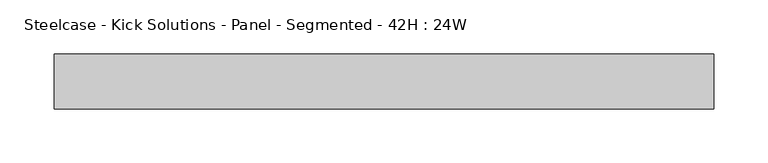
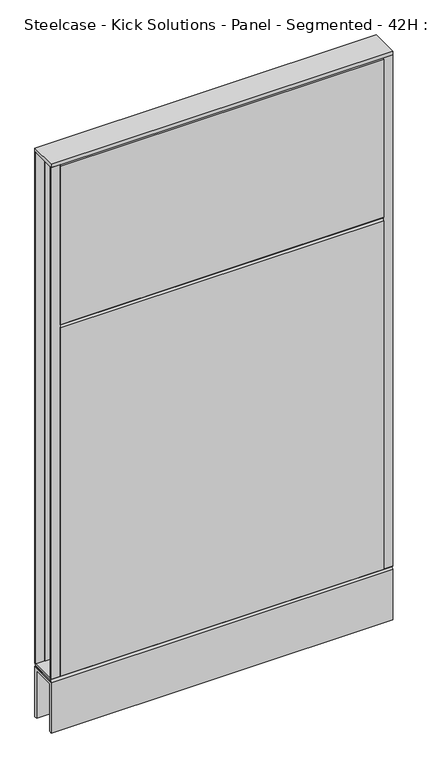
"""IFC4 building model written with IfcOpenShell, lengths in millimetres: furniture geometry, Steelcase - Kick Solutions - Panel - Segmented - 42H : 24W."""

import ifcopenshell
import ifcopenshell.guid

model = None  # the IFC model being written
_history = None  # IfcOwnerHistory: only IFC2X3 demands one
_inside = {}  # id of a spatial element -> (the spatial element, [elements in it])
_under = {}  # id of a project, library or spatial element -> (it, [spatial elements below it])
_declared = {}  # id of a project -> (the project, [libraries it declares])
_typed = {}  # id of a type object -> (the type object, [elements of that type])
_made_of = {}  # id of a material, layer set ... -> (it, [elements and type objects made of it])


def new_model(schema):
    """Start an empty IFC model of exactly this schema.

    Asked for "IFC4X3", IfcOpenShell would pick the latest addendum, in which some entities
    have other attributes; the version numbers below select the first issue.
    IFC2X3 requires an IfcOwnerHistory on every rooted entity: one is made here for all.
    """
    global model, _history
    if schema == "IFC4X3":
        model = ifcopenshell.file(schema_version=(4, 3, 0, 0))
    else:
        model = ifcopenshell.file(schema=schema)
    _inside.clear()
    _under.clear()
    _declared.clear()
    _typed.clear()
    _made_of.clear()
    _history = None
    if model.schema == "IFC2X3":
        org = make("IfcOrganization", Name="unknown")
        user = make(
            "IfcPersonAndOrganization",
            ThePerson=make("IfcPerson", FamilyName="unknown"),
            TheOrganization=org,
        )
        app = make(
            "IfcApplication",
            ApplicationDeveloper=org,
            Version="unknown",
            ApplicationFullName="unknown",
            ApplicationIdentifier="unknown",
        )
        _history = make(
            "IfcOwnerHistory",
            OwningUser=user,
            OwningApplication=app,
            ChangeAction="ADDED",
            CreationDate=0,
        )
    return model


def make(cls, **values):
    """One entity of the class cls with the attributes given. An attribute that is None is left unset."""
    return model.create_entity(
        cls, **{name: value for name, value in values.items() if value is not None}
    )


def rooted(cls, **values):
    """An entity with a GlobalId (a new one), such as an element, a storey or a relation."""
    return make(cls, GlobalId=ifcopenshell.guid.new(), OwnerHistory=_history, **values)


def si_unit(unit_type, name, prefix=None):
    """IfcSIUnit, for example si_unit("LENGTHUNIT", "METRE", prefix="MILLI")."""
    return make("IfcSIUnit", UnitType=unit_type, Prefix=prefix, Name=name)


def assignment(units):
    """IfcUnitAssignment: the units of a project."""
    return None if units is None else make("IfcUnitAssignment", Units=units)


def point(xyz):
    """IfcCartesianPoint."""
    return None if xyz is None else make("IfcCartesianPoint", Coordinates=xyz)


def direction(xyz):
    """IfcDirection."""
    return None if xyz is None else make("IfcDirection", DirectionRatios=xyz)


def frame(location, z_axis=None, x_axis=None):
    """IfcAxis2Placement3D, a coordinate frame: its origin and axes. An axis left out is left unset."""
    return make(
        "IfcAxis2Placement3D",
        Location=point(location),
        Axis=direction(z_axis),
        RefDirection=direction(x_axis),
    )


def origin():
    """The frame at (0, 0, 0) with its axes left unset."""
    return frame((0.0, 0.0, 0.0))


def place(relative_to, where):
    """IfcLocalPlacement: puts the frame where relative to a parent placement (None: the world)."""
    return make(
        "IfcLocalPlacement", PlacementRelTo=relative_to, RelativePlacement=where
    )


def context(
    kind, dimensions, precision=None, world=None, true_north=None, identifier=None
):
    """IfcGeometricRepresentationContext, for example the 3D "Model" context."""
    return make(
        "IfcGeometricRepresentationContext",
        ContextIdentifier=identifier,
        ContextType=kind,
        CoordinateSpaceDimension=dimensions,
        Precision=precision,
        WorldCoordinateSystem=world,
        TrueNorth=true_north,
    )


def project(units=None, contexts=None):
    """IfcProject with its units and contexts."""
    return rooted(
        "IfcProject",
        Name="project",
        RepresentationContexts=contexts,
        UnitsInContext=assignment(units),
    )


def spatial(cls, under=None, at=None, **own):
    """A site, building, storey or space (cls), placed at a placement, below another one or the project."""
    s = rooted(cls, ObjectPlacement=at, **own)
    if under is not None:
        _under.setdefault(under.id(), (under, []))[1].append(s)
    return s


def polyline(points):
    """IfcPolyline through the points."""
    return make("IfcPolyline", Points=[point(p) for p in points])


def outline(outer, holes=None, kind="AREA"):
    """IfcArbitraryClosedProfileDef: a profile drawn as a closed curve; with holes, ...WithVoids."""
    if holes is None:
        return make("IfcArbitraryClosedProfileDef", ProfileType=kind, OuterCurve=outer)
    return make(
        "IfcArbitraryProfileDefWithVoids",
        ProfileType=kind,
        OuterCurve=outer,
        InnerCurves=holes,
    )


def extrude(swept, where, along, depth):
    """IfcExtrudedAreaSolid: the profile swept, set in the frame where, extruded along a direction by depth."""
    return make(
        "IfcExtrudedAreaSolid",
        SweptArea=swept,
        Position=where,
        ExtrudedDirection=direction(along),
        Depth=depth,
    )


def shape(context_of_items, identifier, shape_type, items):
    """IfcShapeRepresentation: the items that make up one representation, for example the "Body"."""
    return make(
        "IfcShapeRepresentation",
        ContextOfItems=context_of_items,
        RepresentationIdentifier=identifier,
        RepresentationType=shape_type,
        Items=items,
    )


def source(mapping_origin, context_of_items, identifier, shape_type, items):
    """IfcRepresentationMap: a shape defined once, which mapped items show again and again."""
    return make(
        "IfcRepresentationMap",
        MappingOrigin=mapping_origin,
        MappedRepresentation=shape(context_of_items, identifier, shape_type, items),
    )


def transform(
    local_origin,
    x_axis=None,
    y_axis=None,
    z_axis=None,
    scale=None,
    scale2=None,
    scale3=None,
    uniform=True,
):
    """IfcCartesianTransformationOperator3D, or its non-uniform kind. x_axis, y_axis, z_axis: its Axis1, 2, 3."""
    if uniform:
        return make(
            "IfcCartesianTransformationOperator3D",
            Axis1=direction(x_axis),
            Axis2=direction(y_axis),
            LocalOrigin=point(local_origin),
            Scale=scale,
            Axis3=direction(z_axis),
        )
    return make(
        "IfcCartesianTransformationOperator3DnonUniform",
        Axis1=direction(x_axis),
        Axis2=direction(y_axis),
        LocalOrigin=point(local_origin),
        Scale=scale,
        Axis3=direction(z_axis),
        Scale2=scale2,
        Scale3=scale3,
    )


def mapped(mapping_source, mapping_target):
    """IfcMappedItem: shows the shape of a source again, moved by a transform."""
    return make(
        "IfcMappedItem", MappingSource=mapping_source, MappingTarget=mapping_target
    )


def made_of(thing, what):
    """Note that an element or type object is made of a material, layer set ...; save() writes the relation."""
    if what is not None:
        _made_of.setdefault(what.id(), (what, []))[1].append(thing)
    return thing


def element(
    cls,
    number,
    at=None,
    inside=None,
    cuts=None,
    type_object=None,
    material=None,
    context=None,
    identifier="Body",
    shape_type=None,
    held_by="IfcProductDefinitionShape",
    body=None,
    shapes=None,
    **own,
):
    """One element of the class cls, such as IfcWall. Its Tag is "e" and its number.

    at: its placement. inside: the storey or other place that contains it. cuts: it is an
    opening in that element (IfcRelVoidsElement). A single representation is given by context,
    identifier, shape_type and body (its items); several are given by shapes. held_by: the class
    of the entity that holds the representations. save() writes the other relations.
    """
    e = rooted(cls, Tag="e%d" % number, ObjectPlacement=at, **own)
    if body is not None:
        shapes = [shape(context, identifier, shape_type, body)]
    if shapes is not None:
        e.Representation = make(held_by, Representations=shapes)
    if inside is not None:
        _inside.setdefault(inside.id(), (inside, []))[1].append(e)
    if cuts is not None:
        rooted(
            "IfcRelVoidsElement", RelatingBuildingElement=cuts, RelatedOpeningElement=e
        )
    if type_object is not None:
        _typed.setdefault(type_object.id(), (type_object, []))[1].append(e)
    return made_of(e, material)


def aggregate(whole, parts):
    """IfcRelAggregates: a whole, such as a stair, and the parts it consists of."""
    return rooted("IfcRelAggregates", RelatingObject=whole, RelatedObjects=parts)


def save(model, path):
    """Write the relations noted so far, then the file.

    IfcRelAggregates (storeys below a building ...), IfcRelContainedInSpatialStructure (elements
    in a storey), IfcRelDefinesByType, IfcRelAssociatesMaterial and IfcRelDeclares: one each for
    every whole, place, type object, material and project.
    """
    for whole, parts in _under.values():
        aggregate(whole, parts)
    for where, things in _inside.values():
        rooted(
            "IfcRelContainedInSpatialStructure",
            RelatedElements=things,
            RelatingStructure=where,
        )
    for kind, things in _typed.values():
        rooted("IfcRelDefinesByType", RelatedObjects=things, RelatingType=kind)
    for what, things in _made_of.values():
        rooted("IfcRelAssociatesMaterial", RelatedObjects=things, RelatingMaterial=what)
    for by, libraries in _declared.values():
        rooted("IfcRelDeclares", RelatingContext=by, RelatedDefinitions=libraries)
    model.write(path)


def steelcase_kick_solutions_panel_segmented_42h_24w_6584873f(model_context):
    return source(origin(), model_context, "Body", "SweptSolid", [
        extrude(outline(polyline([(1.5e-06, 101.600003), (-3.175, 101.600003), (-3.175, 1066.8), (1.5e-06, 1063.7188448), (1.5e-06, 101.600003)])), frame((15.8749996, 0.0, 0.0), z_axis=(1.0, 0.0, 0.0), x_axis=(0.0, 1.0, 0.0)), (0.0, 0.0, 1.0), 577.8500008),
        extrude(outline(polyline([(-50.8000015, 765.0811552), (-50.8000015, 1063.7188448), (-47.625, 1066.8), (-47.625, 762.0), (-50.8000015, 765.0811552)])), frame((15.8749996, 0.0, 0.0), z_axis=(1.0, 0.0, 0.0), x_axis=(0.0, 1.0, 0.0)), (0.0, 0.0, 1.0), 577.8500008),
        extrude(outline(polyline([(-50.8000015, 101.600003), (-50.8000015, 758.9188448), (-47.625, 762.0), (-47.625, 101.600003), (-50.8000015, 101.600003)])), frame((15.8749996, 0.0, 0.0), z_axis=(1.0, 0.0, 0.0), x_axis=(0.0, 1.0, 0.0)), (0.0, 0.0, 1.0), 577.8500008),
        extrude(outline(polyline([(609.6, -3.1750015), (593.7250004, -3.1750015), (593.7250004, 0.0), (609.6, 0.0), (609.6, -3.1750015)])), frame((0.0, 0.0, 101.7169049), z_axis=(0.0, 0.0, 1.0), x_axis=(1.0, 0.0, 0.0)), (0.0, 0.0, 1.0), 965.199997),
        extrude(outline(polyline([(15.8749996, -50.8000015), (0.0, -50.8000015), (0.0, -47.625), (15.8749996, -47.625), (15.8749996, -50.8000015)])), frame((0.0, 0.0, 101.7169049), z_axis=(0.0, 0.0, 1.0), x_axis=(1.0, 0.0, 0.0)), (0.0, 0.0, 1.0), 965.199997),
        extrude(outline(polyline([(-50.7995075, 101.7169049), (-0.000494, 101.7169049), (-3.0583512, 98.5421458), (-47.7416503, 98.5421458), (-50.7995075, 101.7169049)])), frame((0.0, 0.0, 0.0), z_axis=(1.0, 0.0, 0.0), x_axis=(0.0, 1.0, 0.0)), (0.0, 0.0, 1.0), 609.6),
        extrude(outline(polyline([(609.6, 0.0), (609.6, -50.8000015), (0.0, -50.8000015), (0.0, 0.0), (609.6, 0.0)])), frame((0.0, 0.0, 1066.9169018), z_axis=(0.0, 0.0, 1.0), x_axis=(1.0, 0.0, 0.0)), (0.0, 0.0, 1.0), 6.35),
        extrude(outline(polyline([(15.8749996, -3.1750015), (0.0, -3.1750015), (0.0, 0.0), (15.8749996, 0.0), (15.8749996, -3.1750015)])), frame((0.0, 0.0, 101.7169049), z_axis=(0.0, 0.0, 1.0), x_axis=(1.0, 0.0, 0.0)), (0.0, 0.0, 1.0), 965.199997),
        extrude(outline(polyline([(609.6, -50.8000015), (593.7250004, -50.8000015), (593.7250004, -47.625), (609.6, -47.625), (609.6, -50.8000015)])), frame((0.0, 0.0, 101.7169049), z_axis=(0.0, 0.0, 1.0), x_axis=(1.0, 0.0, 0.0)), (0.0, 0.0, 1.0), 965.199997),
        extrude(outline(polyline([(-50.8000015, 95.3668927), (-47.6247484, 98.5421458), (-3.1752531, 98.5421458), (0.0, 95.3668927), (-50.8000015, 95.3668927)])), frame((0.0, 0.0, 0.0), z_axis=(1.0, 0.0, 0.0), x_axis=(0.0, 1.0, 0.0)), (0.0, 0.0, 1.0), 609.6),
        extrude(outline(polyline([(0.0, 0.0), (-5.08, 0.0), (-5.08, 90.2869018), (-45.7200015, 90.2869018), (-45.7200015, 0.0), (-50.8000015, 0.0), (-50.8000015, 95.3669018), (0.0, 95.3669018), (0.0, 0.0)])), frame((0.0, 0.0, 0.0), z_axis=(1.0, 0.0, 0.0), x_axis=(0.0, 1.0, 0.0)), (0.0, 0.0, 1.0), 609.6),
    ])


if __name__ == "__main__":
    model = new_model("IFC4")
    model_context = context("Model", 3, world=origin())
    ifc_project = project(units=[si_unit("LENGTHUNIT", "METRE", prefix="MILLI")], contexts=[model_context])
    site = spatial("IfcSite", under=ifc_project)
    building = spatial("IfcBuilding", under=site)
    placement = place(None, origin())
    steelcase_kick_solutions_panel_segmented_42h_24w_shape = steelcase_kick_solutions_panel_segmented_42h_24w_6584873f(model_context)
    element("IfcFurniture", 1, ObjectType="Steelcase - Kick Solutions - Panel - Segmented - 42H : 24W", at=placement, inside=building, context=model_context, shape_type="MappedRepresentation", body=[
        mapped(steelcase_kick_solutions_panel_segmented_42h_24w_shape, transform((0.0, 0.0, 0.0), x_axis=(1.0, 0.0, 0.0), y_axis=(0.0, 1.0, 0.0), z_axis=(0.0, 0.0, 1.0))),
    ])
    save(model, "model.ifc")
